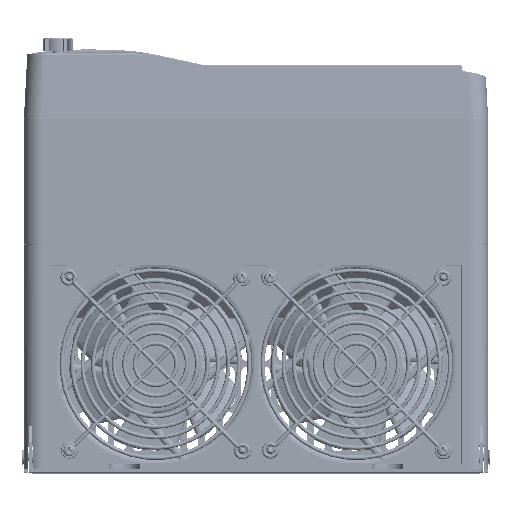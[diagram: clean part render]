
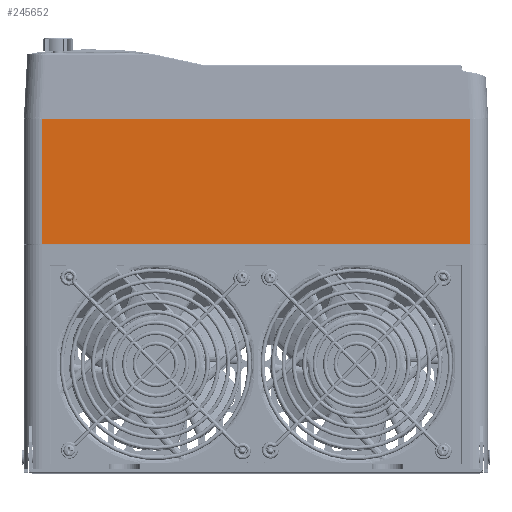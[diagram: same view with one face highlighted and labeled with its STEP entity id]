
A CAD part, top view. The second image highlights one B-rep face of the part: STEP entity #245652.
In plain terms, the highlighted planar face has unit normal (0, 0, 1) as drawn and (1, 0, 0) by its records, which use the part's own axes.
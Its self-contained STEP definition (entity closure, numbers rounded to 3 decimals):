
#163067=DIRECTION('',(0.,1.,0.));
#163068=VECTOR('',#163067,260.);
#163069=CARTESIAN_POINT('',(260.,-130.,76.));
#163070=LINE('',#163069,#163068);
#183394=DIRECTION('',(0.,1.,0.));
#183395=VECTOR('',#183394,260.);
#183396=CARTESIAN_POINT('',(260.,-130.,0.));
#183397=LINE('',#183396,#183395);
#183640=DIRECTION('',(0.,0.,-1.));
#183641=VECTOR('',#183640,76.);
#183642=CARTESIAN_POINT('',(260.,-130.,76.));
#183643=LINE('',#183642,#183641);
#183644=DIRECTION('',(0.,0.,-1.));
#183645=VECTOR('',#183644,76.);
#183646=CARTESIAN_POINT('',(260.,130.,76.));
#183647=LINE('',#183646,#183645);
#197610=CARTESIAN_POINT('',(260.,-130.,0.));
#197612=VERTEX_POINT('',#197610);
#197616=CARTESIAN_POINT('',(260.,-130.,76.));
#197617=VERTEX_POINT('',#197616);
#197619=CARTESIAN_POINT('',(260.,130.,0.));
#197621=VERTEX_POINT('',#197619);
#197622=CARTESIAN_POINT('',(260.,130.,76.));
#197623=VERTEX_POINT('',#197622);
#245640=CARTESIAN_POINT('',(260.,-141.,0.));
#245641=DIRECTION('',(1.,0.,0.));
#245642=DIRECTION('',(0.,1.,0.));
#245643=AXIS2_PLACEMENT_3D('',#245640,#245641,#245642);
#245644=PLANE('',#245643);
#245645=ORIENTED_EDGE('',*,*,#245635,.F.);
#245646=ORIENTED_EDGE('',*,*,#215387,.T.);
#245648=ORIENTED_EDGE('',*,*,#245647,.T.);
#245649=ORIENTED_EDGE('',*,*,#245491,.F.);
#245650=EDGE_LOOP('',(#245645,#245646,#245648,#245649));
#245651=FACE_OUTER_BOUND('',#245650,.F.);
#245652=ADVANCED_FACE('',(#245651),#245644,.T.);
#215387=EDGE_CURVE('',#197617,#197623,#163070,.T.);
#245491=EDGE_CURVE('',#197612,#197621,#183397,.T.);
#245635=EDGE_CURVE('',#197617,#197612,#183643,.T.);
#245647=EDGE_CURVE('',#197623,#197621,#183647,.T.);
